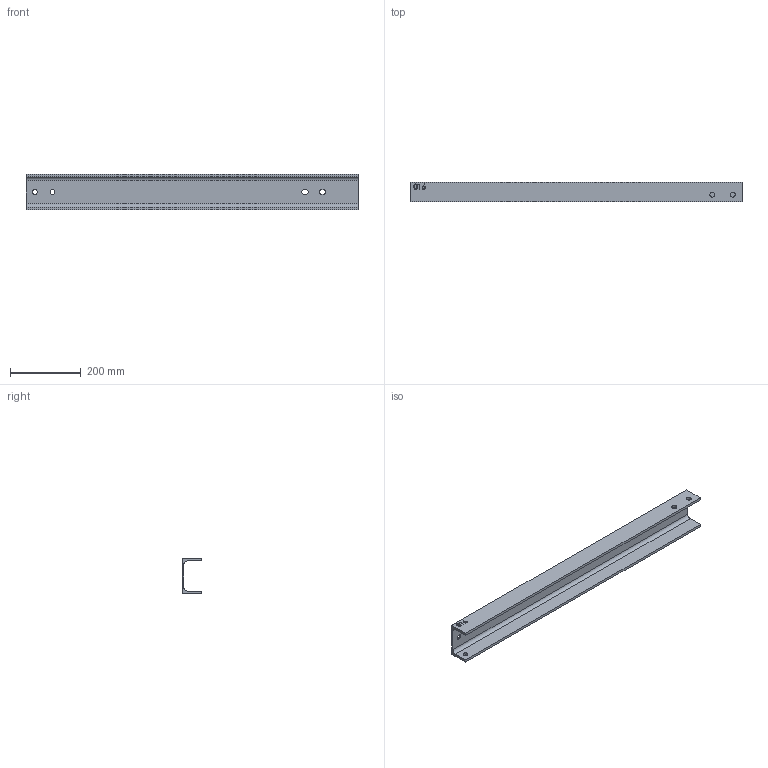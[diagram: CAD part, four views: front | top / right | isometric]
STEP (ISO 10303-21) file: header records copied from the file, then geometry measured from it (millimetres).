
FILE_DESCRIPTION (( 'STEP AP214' ), '1' );
FILE_NAME ('CCJ029-REP.016 - POUTRE B3-B4.STEP', '2024-01-29T11:08:26', ( '' ), ( '' ), 'SwSTEP 2.0', 'SolidWorks 2021', '' );
FILE_SCHEMA (( 'AUTOMOTIVE_DESIGN' ));
Length unit declared in the file: millimetre
Products named in the file (1): CCJ029-REP.016 - POUTRE B3-B4
Bounding box: 940 x 55 x 100 mm (x, y, z)
Volume: 1168596 mm3; surface area: 380334 mm2
Topology: 1 solids, 1 shells, 62 faces, 165 edges, 110 vertices
Faces by surface type: plane 28, bspline 18, cylinder 16
Entity records: 3195 total; most frequent: CARTESIAN_POINT 1676, ORIENTED_EDGE 330, DIRECTION 251, EDGE_CURVE 165, VERTEX_POINT 110, VECTOR 97, LINE 97, EDGE_LOOP 81
